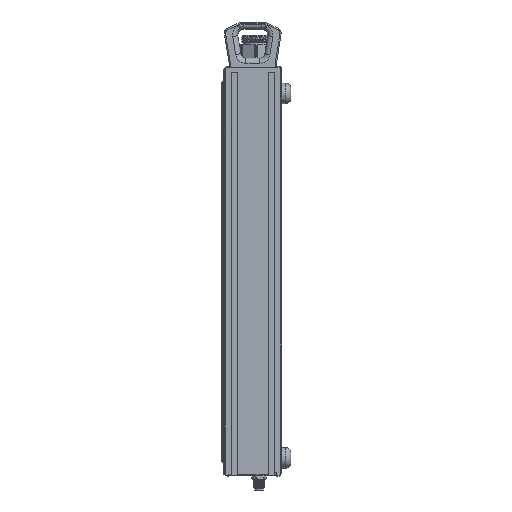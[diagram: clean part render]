
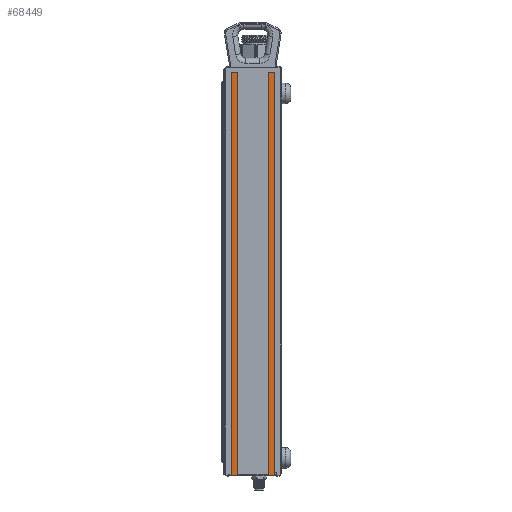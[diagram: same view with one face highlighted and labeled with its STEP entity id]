
A CAD part, left-side view. The second image highlights one B-rep face of the part: STEP entity #68449.
In plain terms, the highlighted planar face has unit normal (-1, 0, 0).
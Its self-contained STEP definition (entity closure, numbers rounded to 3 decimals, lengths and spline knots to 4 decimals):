
#435 = LINE ( 'NONE', #67509, #31922 ) ;
#724 = VERTEX_POINT ( 'NONE', #60385 ) ;
#967 = CARTESIAN_POINT ( 'NONE',  ( -3.005, -0.202, -9.924 ) ) ;
#2690 = CARTESIAN_POINT ( 'NONE',  ( -3.005, 0.715, -9.888 ) ) ;
#4477 = CARTESIAN_POINT ( 'NONE',  ( -3.005, 0.715, -9.903 ) ) ;
#7150 = LINE ( 'NONE', #967, #74197 ) ;
#9527 = DIRECTION ( 'NONE',  ( 0., 0., 1. ) ) ;
#10266 = LINE ( 'NONE', #4477, #44102 ) ;
#10812 = CARTESIAN_POINT ( 'NONE',  ( -3.005, 0.715, -9.888 ) ) ;
#11228 = EDGE_CURVE ( 'NONE', #72309, #54195, #435, .T. ) ;
#12279 = CARTESIAN_POINT ( 'NONE',  ( -3.005, -0.202, -0.139 ) ) ;
#12525 = DIRECTION ( 'NONE',  ( 1., 0., 0. ) ) ;
#12720 = VERTEX_POINT ( 'NONE', #50834 ) ;
#12887 = EDGE_CURVE ( 'NONE', #80537, #724, #52140, .T. ) ;
#15151 = ORIENTED_EDGE ( 'NONE', *, *, #21457, .F. ) ;
#16714 = VERTEX_POINT ( 'NONE', #44403 ) ;
#17420 = CARTESIAN_POINT ( 'NONE',  ( -3.005, 0.542, -9.924 ) ) ;
#17776 = CARTESIAN_POINT ( 'NONE',  ( -3.005, -0.37, -9.903 ) ) ;
#18210 = VERTEX_POINT ( 'NONE', #73142 ) ;
#18320 = CARTESIAN_POINT ( 'NONE',  ( -3.005, -0.202, -9.924 ) ) ;
#18674 = ORIENTED_EDGE ( 'NONE', *, *, #33522, .T. ) ;
#18784 = CARTESIAN_POINT ( 'NONE',  ( -3.005, -0.37, -9.888 ) ) ;
#20070 = DIRECTION ( 'NONE',  ( 0., 0., -1. ) ) ;
#21457 = EDGE_CURVE ( 'NONE', #37556, #55263, #69809, .T. ) ;
#21792 = VECTOR ( 'NONE', #56457, 39.3701 ) ;
#22865 = VECTOR ( 'NONE', #65316, 39.3701 ) ;
#24710 = DIRECTION ( 'NONE',  ( 0., 1., 0. ) ) ;
#27203 = ORIENTED_EDGE ( 'NONE', *, *, #12887, .T. ) ;
#27846 = CARTESIAN_POINT ( 'NONE',  ( -3.005, 0.542, -0.139 ) ) ;
#28364 = VECTOR ( 'NONE', #84613, 39.3701 ) ;
#28596 = EDGE_CURVE ( 'NONE', #87066, #80537, #77357, .T. ) ;
#28969 = VECTOR ( 'NONE', #33878, 39.3701 ) ;
#29975 = CARTESIAN_POINT ( 'NONE',  ( -3.005, -0.358, -9.924 ) ) ;
#30552 = ORIENTED_EDGE ( 'NONE', *, *, #66621, .F. ) ;
#31178 = DIRECTION ( 'NONE',  ( 0., 0., 1. ) ) ;
#31922 = VECTOR ( 'NONE', #47103, 39.3701 ) ;
#33518 = VECTOR ( 'NONE', #45481, 39.3701 ) ;
#33522 = EDGE_CURVE ( 'NONE', #724, #72309, #43771, .T. ) ;
#33751 = EDGE_CURVE ( 'NONE', #16714, #66360, #83137, .T. ) ;
#33878 = DIRECTION ( 'NONE',  ( 0., 1., 0. ) ) ;
#34683 = VERTEX_POINT ( 'NONE', #53061 ) ;
#37556 = VERTEX_POINT ( 'NONE', #58888 ) ;
#37654 = CARTESIAN_POINT ( 'NONE',  ( -3.005, -0.358, -0.139 ) ) ;
#38018 = ORIENTED_EDGE ( 'NONE', *, *, #81614, .T. ) ;
#38753 = PLANE ( 'NONE',  #68041 ) ;
#40344 = EDGE_CURVE ( 'NONE', #12720, #66360, #10266, .T. ) ;
#40552 = CARTESIAN_POINT ( 'NONE',  ( -3.005, 0.715, -9.888 ) ) ;
#40923 = DIRECTION ( 'NONE',  ( 0., 0., 1. ) ) ;
#41836 = ORIENTED_EDGE ( 'NONE', *, *, #49773, .F. ) ;
#42272 = CARTESIAN_POINT ( 'NONE',  ( -3.005, 0., -0.139 ) ) ;
#43771 = LINE ( 'NONE', #29975, #51615 ) ;
#44102 = VECTOR ( 'NONE', #64479, 39.3701 ) ;
#44403 = CARTESIAN_POINT ( 'NONE',  ( -3.005, 0.698, -9.888 ) ) ;
#45481 = DIRECTION ( 'NONE',  ( 0., 1., 0. ) ) ;
#46165 = ORIENTED_EDGE ( 'NONE', *, *, #82540, .T. ) ;
#46410 = VECTOR ( 'NONE', #55614, 39.3701 ) ;
#47103 = DIRECTION ( 'NONE',  ( 0., 1., 0. ) ) ;
#47509 = VECTOR ( 'NONE', #31178, 39.3701 ) ;
#49773 = EDGE_CURVE ( 'NONE', #87066, #12720, #85626, .T. ) ;
#50834 = CARTESIAN_POINT ( 'NONE',  ( -3.005, 0.715, -9.903 ) ) ;
#51265 = LINE ( 'NONE', #65876, #28364 ) ;
#51615 = VECTOR ( 'NONE', #9527, 39.3701 ) ;
#51823 = CARTESIAN_POINT ( 'NONE',  ( -3.005, -0.37, -9.903 ) ) ;
#52140 = LINE ( 'NONE', #10812, #33518 ) ;
#53061 = CARTESIAN_POINT ( 'NONE',  ( -3.005, -0.202, -9.888 ) ) ;
#54195 = VERTEX_POINT ( 'NONE', #12279 ) ;
#55263 = VERTEX_POINT ( 'NONE', #27846 ) ;
#55614 = DIRECTION ( 'NONE',  ( 0., -1., 0. ) ) ;
#56457 = DIRECTION ( 'NONE',  ( 0., 1., 0. ) ) ;
#57820 = ORIENTED_EDGE ( 'NONE', *, *, #40344, .F. ) ;
#58680 = ORIENTED_EDGE ( 'NONE', *, *, #60652, .F. ) ;
#58888 = CARTESIAN_POINT ( 'NONE',  ( -3.005, 0.698, -0.139 ) ) ;
#60385 = CARTESIAN_POINT ( 'NONE',  ( -3.005, -0.358, -9.888 ) ) ;
#60652 = EDGE_CURVE ( 'NONE', #34683, #54195, #7150, .T. ) ;
#63384 = CARTESIAN_POINT ( 'NONE',  ( -3.005, 0.715, -9.888 ) ) ;
#64230 = ORIENTED_EDGE ( 'NONE', *, *, #28596, .T. ) ;
#64479 = DIRECTION ( 'NONE',  ( 0., 0., 1. ) ) ;
#65316 = DIRECTION ( 'NONE',  ( 0., 0., 1. ) ) ;
#65876 = CARTESIAN_POINT ( 'NONE',  ( -3.005, 0.698, -9.924 ) ) ;
#66360 = VERTEX_POINT ( 'NONE', #63384 ) ;
#66621 = EDGE_CURVE ( 'NONE', #16714, #37556, #51265, .T. ) ;
#67509 = CARTESIAN_POINT ( 'NONE',  ( -3.005, -0.358, -0.139 ) ) ;
#68041 = AXIS2_PLACEMENT_3D ( 'NONE', #18320, #12525, #20070 ) ;
#68449 = ADVANCED_FACE ( 'NONE', ( #80978 ), #38753, .F. ) ;
#69809 = LINE ( 'NONE', #42272, #46410 ) ;
#72013 = ORIENTED_EDGE ( 'NONE', *, *, #33751, .T. ) ;
#72309 = VERTEX_POINT ( 'NONE', #37654 ) ;
#73142 = CARTESIAN_POINT ( 'NONE',  ( -3.005, 0.542, -9.888 ) ) ;
#73210 = EDGE_LOOP ( 'NONE', ( #58680, #38018, #46165, #15151, #30552, #72013, #57820, #41836, #64230, #27203, #18674, #84304 ) ) ;
#74197 = VECTOR ( 'NONE', #40923, 39.3701 ) ;
#77357 = LINE ( 'NONE', #17776, #22865 ) ;
#79821 = CARTESIAN_POINT ( 'NONE',  ( -3.005, 0.715, -9.903 ) ) ;
#80537 = VERTEX_POINT ( 'NONE', #18784 ) ;
#80978 = FACE_OUTER_BOUND ( 'NONE', #73210, .T. ) ;
#81028 = LINE ( 'NONE', #40552, #28969 ) ;
#81614 = EDGE_CURVE ( 'NONE', #34683, #18210, #81028, .T. ) ;
#82540 = EDGE_CURVE ( 'NONE', #18210, #55263, #84993, .T. ) ;
#83137 = LINE ( 'NONE', #2690, #21792 ) ;
#84304 = ORIENTED_EDGE ( 'NONE', *, *, #11228, .T. ) ;
#84613 = DIRECTION ( 'NONE',  ( 0., 0., 1. ) ) ;
#84993 = LINE ( 'NONE', #17420, #47509 ) ;
#85626 = LINE ( 'NONE', #79821, #85820 ) ;
#85820 = VECTOR ( 'NONE', #24710, 39.3701 ) ;
#87066 = VERTEX_POINT ( 'NONE', #51823 ) ;
